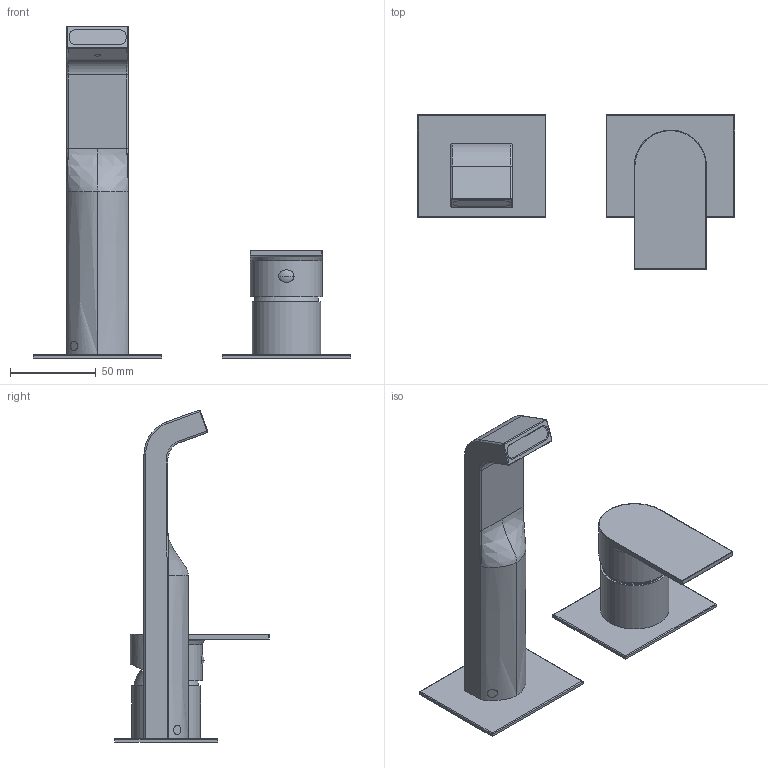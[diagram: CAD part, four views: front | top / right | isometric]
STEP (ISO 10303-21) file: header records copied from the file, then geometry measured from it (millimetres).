
FILE_DESCRIPTION((''),'2;1');
FILE_NAME('83547_SW0001','2020-09-18T13:54:13',('volponeff'),(''),'CREO PARAMETRIC BY PTC INC, 2018100','CREO PARAMETRIC BY PTC INC, 2018100','');
FILE_SCHEMA(('CONFIG_CONTROL_DESIGN'));
Length unit declared in the file: millimetre
Products named in the file (1): 83547_SW0001
Bounding box: 185 x 90 x 193.43 mm (x, y, z)
Volume: 153960.3 mm3; surface area: 80835.1 mm2
Topology: 3 solids, 5 shells, 302 faces, 692 edges, 413 vertices
Faces by surface type: plane 95, cylinder 91, cone 41, bspline 40, torus 25, sphere 10
Entity records: 12630 total; most frequent: CARTESIAN_POINT 6050, ORIENTED_EDGE 1380, DIRECTION 1328, EDGE_CURVE 690, AXIS2_PLACEMENT_3D 518, VERTEX_POINT 413, EDGE_LOOP 321, FACE_OUTER_BOUND 302
